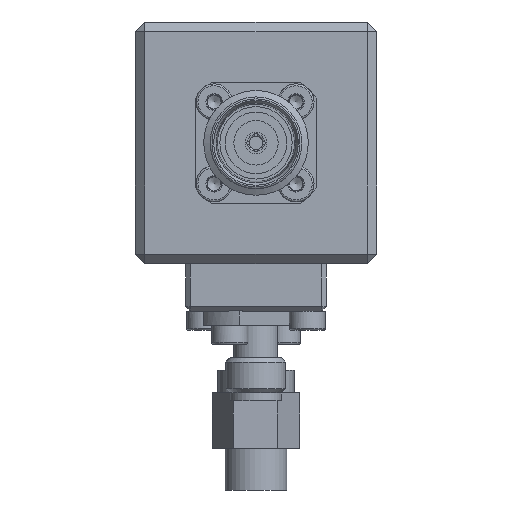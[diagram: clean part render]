
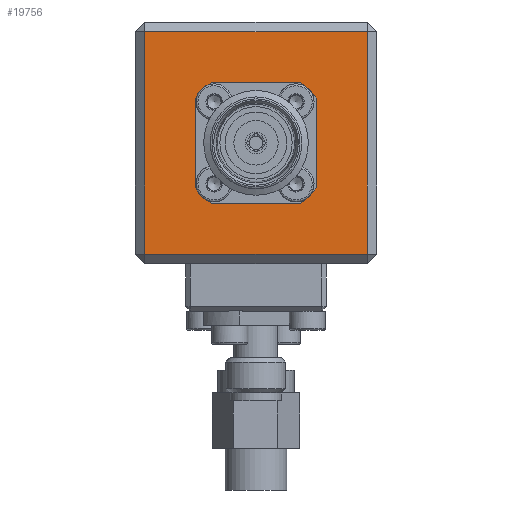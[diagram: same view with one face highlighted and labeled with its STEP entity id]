
A CAD part, front view. The second image highlights one B-rep face of the part: STEP entity #19756.
In plain terms, the highlighted planar face has unit normal (0, -1, 0).
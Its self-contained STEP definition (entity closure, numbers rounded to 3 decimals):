
#655=CIRCLE('',#20688,7.9);
#656=CIRCLE('',#20689,7.9);
#657=CIRCLE('',#20690,7.9);
#658=CIRCLE('',#20691,7.9);
#1080=ORIENTED_EDGE('',*,*,#4872,.T.);
#1081=ORIENTED_EDGE('',*,*,#4873,.T.);
#1082=ORIENTED_EDGE('',*,*,#4874,.T.);
#1083=ORIENTED_EDGE('',*,*,#4875,.T.);
#1084=ORIENTED_EDGE('',*,*,#4876,.T.);
#1085=ORIENTED_EDGE('',*,*,#4877,.F.);
#1086=ORIENTED_EDGE('',*,*,#4878,.T.);
#1087=ORIENTED_EDGE('',*,*,#4879,.F.);
#1088=ORIENTED_EDGE('',*,*,#4880,.T.);
#1089=ORIENTED_EDGE('',*,*,#4881,.F.);
#1090=ORIENTED_EDGE('',*,*,#4882,.T.);
#1091=ORIENTED_EDGE('',*,*,#4883,.F.);
#4872=EDGE_CURVE('',#6768,#6769,#8111,.T.);
#4873=EDGE_CURVE('',#6769,#6770,#8112,.T.);
#4874=EDGE_CURVE('',#6770,#6771,#8113,.T.);
#4875=EDGE_CURVE('',#6771,#6768,#8114,.T.);
#4876=EDGE_CURVE('',#6772,#6773,#8115,.T.);
#4877=EDGE_CURVE('',#6774,#6773,#655,.T.);
#4878=EDGE_CURVE('',#6774,#6775,#8116,.T.);
#4879=EDGE_CURVE('',#6776,#6775,#656,.T.);
#4880=EDGE_CURVE('',#6776,#6777,#8117,.T.);
#4881=EDGE_CURVE('',#6778,#6777,#657,.T.);
#4882=EDGE_CURVE('',#6778,#6779,#8118,.T.);
#4883=EDGE_CURVE('',#6772,#6779,#658,.T.);
#6768=VERTEX_POINT('',#25654);
#6769=VERTEX_POINT('',#25655);
#6770=VERTEX_POINT('',#25657);
#6771=VERTEX_POINT('',#25659);
#6772=VERTEX_POINT('',#25662);
#6773=VERTEX_POINT('',#25663);
#6774=VERTEX_POINT('',#25665);
#6775=VERTEX_POINT('',#25667);
#6776=VERTEX_POINT('',#25669);
#6777=VERTEX_POINT('',#25671);
#6778=VERTEX_POINT('',#25673);
#6779=VERTEX_POINT('',#25675);
#8111=LINE('',#25653,#9305);
#8112=LINE('',#25656,#9306);
#8113=LINE('',#25658,#9307);
#8114=LINE('',#25660,#9308);
#8115=LINE('',#25661,#9309);
#8116=LINE('',#25666,#9310);
#8117=LINE('',#25670,#9311);
#8118=LINE('',#25674,#9312);
#9305=VECTOR('',#21947,1000.);
#9306=VECTOR('',#21948,1000.);
#9307=VECTOR('',#21949,1000.);
#9308=VECTOR('',#21950,1000.);
#9309=VECTOR('',#21951,1000.);
#9310=VECTOR('',#21954,1000.);
#9311=VECTOR('',#21957,1000.);
#9312=VECTOR('',#21960,1000.);
#10499=EDGE_LOOP('',(#1080,#1081,#1082,#1083));
#10500=EDGE_LOOP('',(#1084,#1085,#1086,#1087,#1088,#1089,#1090,#1091));
#11720=FACE_BOUND('',#10499,.T.);
#11721=FACE_BOUND('',#10500,.T.);
#12961=PLANE('',#20687);
#19756=ADVANCED_FACE('',(#11720,#11721),#12961,.F.);
#20687=AXIS2_PLACEMENT_3D('',#25652,#21945,#21946);
#20688=AXIS2_PLACEMENT_3D('',#25664,#21952,#21953);
#20689=AXIS2_PLACEMENT_3D('',#25668,#21955,#21956);
#20690=AXIS2_PLACEMENT_3D('',#25672,#21958,#21959);
#20691=AXIS2_PLACEMENT_3D('',#25676,#21961,#21962);
#21945=DIRECTION('',(0.,1.,0.));
#21946=DIRECTION('',(0.,0.,1.));
#21947=DIRECTION('',(1.,0.,0.));
#21948=DIRECTION('',(0.,0.,1.));
#21949=DIRECTION('',(-1.,0.,0.));
#21950=DIRECTION('',(0.,0.,-1.));
#21951=DIRECTION('',(-1.,0.,0.));
#21952=DIRECTION('',(0.,-1.,0.));
#21953=DIRECTION('',(1.,0.,0.));
#21954=DIRECTION('',(0.,0.,1.));
#21955=DIRECTION('',(0.,-1.,0.));
#21956=DIRECTION('',(1.,0.,0.));
#21957=DIRECTION('',(1.,0.,0.));
#21958=DIRECTION('',(0.,-1.,0.));
#21959=DIRECTION('',(1.,0.,0.));
#21960=DIRECTION('',(0.,0.,-1.));
#21961=DIRECTION('',(0.,-1.,0.));
#21962=DIRECTION('',(1.,0.,0.));
#25652=CARTESIAN_POINT('',(12.7,0.,-12.7));
#25653=CARTESIAN_POINT('',(12.7,0.,-11.7));
#25654=CARTESIAN_POINT('',(-11.7,0.,-11.7));
#25655=CARTESIAN_POINT('',(11.7,0.,-11.7));
#25656=CARTESIAN_POINT('',(11.7,0.,-12.7));
#25657=CARTESIAN_POINT('',(11.7,0.,11.7));
#25658=CARTESIAN_POINT('',(12.7,0.,11.7));
#25659=CARTESIAN_POINT('',(-11.7,0.,11.7));
#25660=CARTESIAN_POINT('',(-11.7,0.,-12.7));
#25661=CARTESIAN_POINT('',(6.35,0.,-6.35));
#25662=CARTESIAN_POINT('',(4.7,0.,-6.35));
#25663=CARTESIAN_POINT('',(-4.7,0.,-6.35));
#25664=CARTESIAN_POINT('',(0.,0.,0.));
#25665=CARTESIAN_POINT('',(-6.35,0.,-4.7));
#25666=CARTESIAN_POINT('',(-6.35,0.,-6.35));
#25667=CARTESIAN_POINT('',(-6.35,0.,4.7));
#25668=CARTESIAN_POINT('',(0.,0.,0.));
#25669=CARTESIAN_POINT('',(-4.7,0.,6.35));
#25670=CARTESIAN_POINT('',(-6.35,0.,6.35));
#25671=CARTESIAN_POINT('',(4.7,0.,6.35));
#25672=CARTESIAN_POINT('',(0.,0.,0.));
#25673=CARTESIAN_POINT('',(6.35,0.,4.7));
#25674=CARTESIAN_POINT('',(6.35,0.,6.35));
#25675=CARTESIAN_POINT('',(6.35,0.,-4.7));
#25676=CARTESIAN_POINT('',(0.,0.,0.));
